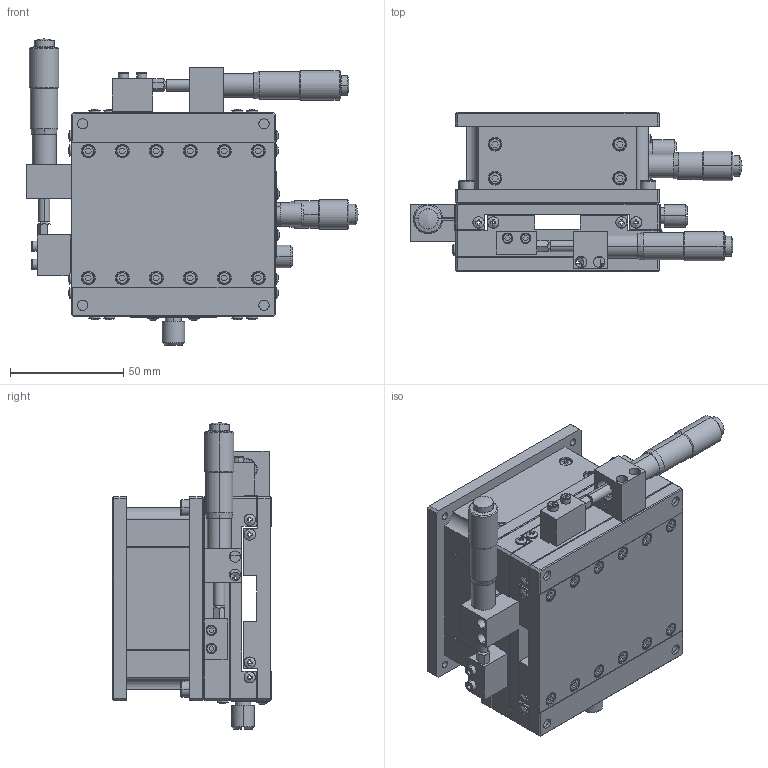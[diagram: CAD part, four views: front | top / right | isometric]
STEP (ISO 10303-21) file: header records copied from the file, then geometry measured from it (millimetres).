
FILE_DESCRIPTION (( 'STEP AP214' ), '1' );
FILE_NAME ('LD90.STEP', '2022-09-11T03:52:02', ( '' ), ( '' ), 'SwSTEP 2.0', 'SolidWorks 2017', '' );
FILE_SCHEMA (( 'AUTOMOTIVE_DESIGN' ));
Length unit declared in the file: millimetre
Products named in the file (1): LD90
Bounding box: 146.46 x 70 x 135.1 mm (x, y, z)
Surface area: 119302.5 mm2 (no closed solid volume)
Topology: 0 solids, 61 shells, 1140 faces, 3395 edges, 2300 vertices
Faces by surface type: plane 710, cylinder 213, cone 113, bspline 104
Entity records: 48522 total; most frequent: CARTESIAN_POINT 19856, ORIENTED_EDGE 5800, DIRECTION 5313, EDGE_CURVE 3342, VERTEX_POINT 2300, LINE 1911, VECTOR 1911, AXIS2_PLACEMENT_3D 1701
